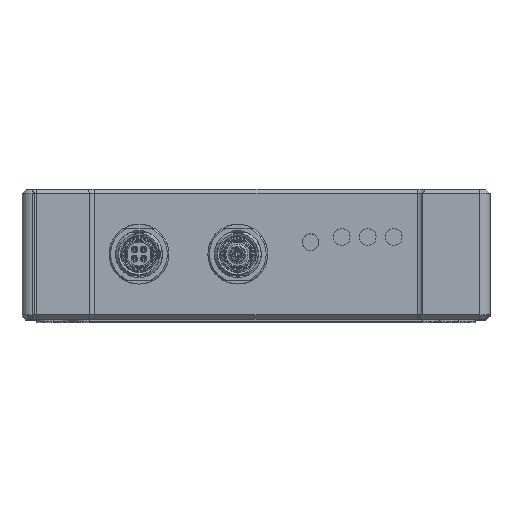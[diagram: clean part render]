
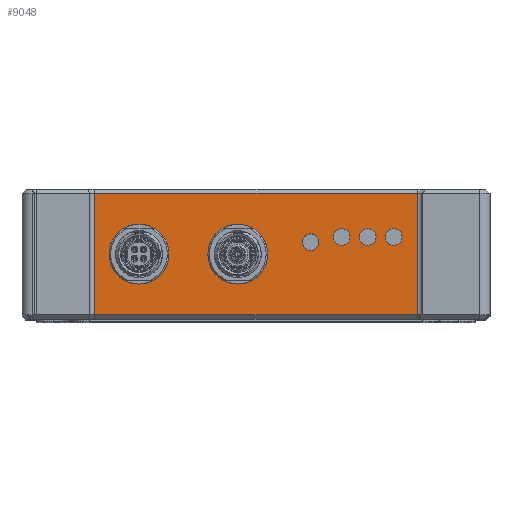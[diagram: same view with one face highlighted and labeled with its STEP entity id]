
A CAD part, top view. The second image highlights one B-rep face of the part: STEP entity #9048.
In plain terms, the highlighted planar face has unit normal (0, 0, 1).
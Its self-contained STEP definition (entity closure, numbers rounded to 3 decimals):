
#3156=CARTESIAN_POINT('',(10.5,14.8,61.5));
#3157=DIRECTION('',(0.,0.,1.));
#3158=DIRECTION('',(0.,-1.,0.));
#3159=AXIS2_PLACEMENT_3D('',#3156,#3157,#3158);
#3164=CARTESIAN_POINT('',(10.5,14.8,61.5));
#3165=DIRECTION('',(0.,0.,1.));
#3166=DIRECTION('',(0.,1.,0.));
#3167=AXIS2_PLACEMENT_3D('',#3164,#3165,#3166);
#3172=CARTESIAN_POINT('',(16.5,15.8,61.5));
#3173=DIRECTION('',(0.,0.,1.));
#3174=DIRECTION('',(0.,-1.,0.));
#3175=AXIS2_PLACEMENT_3D('',#3172,#3173,#3174);
#3180=CARTESIAN_POINT('',(16.5,15.8,61.5));
#3181=DIRECTION('',(0.,0.,1.));
#3182=DIRECTION('',(0.,1.,0.));
#3183=AXIS2_PLACEMENT_3D('',#3180,#3181,#3182);
#3188=CARTESIAN_POINT('',(21.5,15.8,61.5));
#3189=DIRECTION('',(0.,0.,1.));
#3190=DIRECTION('',(0.,-1.,0.));
#3191=AXIS2_PLACEMENT_3D('',#3188,#3189,#3190);
#3196=CARTESIAN_POINT('',(21.5,15.8,61.5));
#3197=DIRECTION('',(0.,0.,1.));
#3198=DIRECTION('',(0.,1.,0.));
#3199=AXIS2_PLACEMENT_3D('',#3196,#3197,#3198);
#3204=CARTESIAN_POINT('',(26.5,15.8,61.5));
#3205=DIRECTION('',(0.,0.,1.));
#3206=DIRECTION('',(0.,-1.,0.));
#3207=AXIS2_PLACEMENT_3D('',#3204,#3205,#3206);
#3212=CARTESIAN_POINT('',(26.5,15.8,61.5));
#3213=DIRECTION('',(0.,0.,1.));
#3214=DIRECTION('',(0.,1.,0.));
#3215=AXIS2_PLACEMENT_3D('',#3212,#3213,#3214);
#3220=DIRECTION('',(1.,0.,0.));
#3221=VECTOR('',#3220,2.849);
#3222=CARTESIAN_POINT('',(-4.925,8.325,61.5));
#3223=LINE('',#3222,#3221);
#3227=CARTESIAN_POINT('',(-3.5,12.5,61.5));
#3228=DIRECTION('',(0.,0.,1.));
#3229=DIRECTION('',(0.548,-0.837,0.));
#3230=AXIS2_PLACEMENT_3D('',#3227,#3228,#3229);
#3235=DIRECTION('',(-1.,0.,0.));
#3236=VECTOR('',#3235,2.849);
#3237=CARTESIAN_POINT('',(-2.075,16.675,61.5));
#3238=LINE('',#3237,#3236);
#3242=CARTESIAN_POINT('',(-3.5,12.5,61.5));
#3243=DIRECTION('',(0.,0.,1.));
#3244=DIRECTION('',(-0.548,0.837,0.));
#3245=AXIS2_PLACEMENT_3D('',#3242,#3243,#3244);
#3250=CARTESIAN_POINT('',(-22.5,12.5,61.5));
#3251=DIRECTION('',(0.,0.,1.));
#3252=DIRECTION('',(0.548,-0.837,0.));
#3253=AXIS2_PLACEMENT_3D('',#3250,#3251,#3252);
#3258=DIRECTION('',(-1.,0.,0.));
#3259=VECTOR('',#3258,2.849);
#3260=CARTESIAN_POINT('',(-21.075,16.675,61.5));
#3261=LINE('',#3260,#3259);
#3265=CARTESIAN_POINT('',(-22.5,12.5,61.5));
#3266=DIRECTION('',(0.,0.,1.));
#3267=DIRECTION('',(-0.548,0.837,0.));
#3268=AXIS2_PLACEMENT_3D('',#3265,#3266,#3267);
#3273=DIRECTION('',(1.,0.,0.));
#3274=VECTOR('',#3273,2.849);
#3275=CARTESIAN_POINT('',(-23.925,8.325,61.5));
#3276=LINE('',#3275,#3274);
#3280=DIRECTION('',(-1.,0.,0.));
#3281=VECTOR('',#3280,62.);
#3282=CARTESIAN_POINT('',(31.,24.2,61.5));
#3283=LINE('',#3282,#3281);
#3287=DIRECTION('',(0.,1.,0.));
#3288=VECTOR('',#3287,23.4);
#3289=CARTESIAN_POINT('',(31.,0.8,61.5));
#3290=LINE('',#3289,#3288);
#3294=DIRECTION('',(1.,0.,0.));
#3295=VECTOR('',#3294,62.);
#3296=CARTESIAN_POINT('',(-31.,0.8,61.5));
#3297=LINE('',#3296,#3295);
#3301=DIRECTION('',(0.,1.,0.));
#3302=VECTOR('',#3301,23.4);
#3303=CARTESIAN_POINT('',(-31.,0.8,61.5));
#3304=LINE('',#3303,#3302);
#4537=CARTESIAN_POINT('',(-2.075,14.675,61.5));
#4538=DIRECTION('',(0.,0.,-1.));
#4539=DIRECTION('',(0.,1.,0.));
#4540=AXIS2_PLACEMENT_3D('',#4537,#4538,#4539);
#4574=CARTESIAN_POINT('',(-4.925,14.675,61.5));
#4575=DIRECTION('',(0.,0.,-1.));
#4576=DIRECTION('',(-0.548,0.837,0.));
#4577=AXIS2_PLACEMENT_3D('',#4574,#4575,#4576);
#4612=CARTESIAN_POINT('',(-4.925,10.325,61.5));
#4613=DIRECTION('',(0.,0.,-1.));
#4614=DIRECTION('',(0.,-1.,0.));
#4615=AXIS2_PLACEMENT_3D('',#4612,#4613,#4614);
#4649=CARTESIAN_POINT('',(-2.075,10.325,61.5));
#4650=DIRECTION('',(0.,0.,-1.));
#4651=DIRECTION('',(0.548,-0.837,0.));
#4652=AXIS2_PLACEMENT_3D('',#4649,#4650,#4651);
#4686=CARTESIAN_POINT('',(-21.075,14.675,61.5));
#4687=DIRECTION('',(0.,0.,-1.));
#4688=DIRECTION('',(0.,1.,0.));
#4689=AXIS2_PLACEMENT_3D('',#4686,#4687,#4688);
#4724=CARTESIAN_POINT('',(-21.075,10.325,61.5));
#4725=DIRECTION('',(0.,0.,-1.));
#4726=DIRECTION('',(0.548,-0.837,0.));
#4727=AXIS2_PLACEMENT_3D('',#4724,#4725,#4726);
#4761=CARTESIAN_POINT('',(-23.925,10.325,61.5));
#4762=DIRECTION('',(0.,0.,-1.));
#4763=DIRECTION('',(0.,-1.,0.));
#4764=AXIS2_PLACEMENT_3D('',#4761,#4762,#4763);
#4799=CARTESIAN_POINT('',(-23.925,14.675,61.5));
#4800=DIRECTION('',(0.,0.,-1.));
#4801=DIRECTION('',(-0.548,0.837,0.));
#4802=AXIS2_PLACEMENT_3D('',#4799,#4800,#4801);
#6312=CARTESIAN_POINT('',(10.5,13.2,61.5));
#6313=CARTESIAN_POINT('',(10.5,16.4,61.5));
#6314=VERTEX_POINT('',#6312);
#6315=VERTEX_POINT('',#6313);
#6316=CARTESIAN_POINT('',(16.5,14.5,61.5));
#6317=CARTESIAN_POINT('',(16.5,17.1,61.5));
#6318=VERTEX_POINT('',#6316);
#6319=VERTEX_POINT('',#6317);
#6320=CARTESIAN_POINT('',(21.5,14.5,61.5));
#6321=CARTESIAN_POINT('',(21.5,17.1,61.5));
#6322=VERTEX_POINT('',#6320);
#6323=VERTEX_POINT('',#6321);
#6324=CARTESIAN_POINT('',(26.5,14.5,61.5));
#6325=CARTESIAN_POINT('',(26.5,17.1,61.5));
#6326=VERTEX_POINT('',#6324);
#6327=VERTEX_POINT('',#6325);
#6422=CARTESIAN_POINT('',(-31.,24.2,61.5));
#6424=VERTEX_POINT('',#6422);
#6426=CARTESIAN_POINT('',(31.,24.2,61.5));
#6427=VERTEX_POINT('',#6426);
#6498=CARTESIAN_POINT('',(31.,0.8,61.5));
#6499=VERTEX_POINT('',#6498);
#6500=CARTESIAN_POINT('',(-31.,0.8,61.5));
#6501=VERTEX_POINT('',#6500);
#6604=CARTESIAN_POINT('',(-2.075,16.675,61.5));
#6606=VERTEX_POINT('',#6604);
#6608=CARTESIAN_POINT('',(-0.98,16.348,61.5));
#6610=VERTEX_POINT('',#6608);
#6612=CARTESIAN_POINT('',(-0.98,8.652,61.5));
#6614=VERTEX_POINT('',#6612);
#6616=CARTESIAN_POINT('',(-2.075,8.325,61.5));
#6618=VERTEX_POINT('',#6616);
#6620=CARTESIAN_POINT('',(-4.925,8.325,61.5));
#6622=VERTEX_POINT('',#6620);
#6624=CARTESIAN_POINT('',(-6.02,8.652,61.5));
#6626=VERTEX_POINT('',#6624);
#6628=CARTESIAN_POINT('',(-6.02,16.348,61.5));
#6630=VERTEX_POINT('',#6628);
#6632=CARTESIAN_POINT('',(-4.925,16.675,61.5));
#6634=VERTEX_POINT('',#6632);
#6636=CARTESIAN_POINT('',(-21.075,16.675,61.5));
#6638=VERTEX_POINT('',#6636);
#6640=CARTESIAN_POINT('',(-19.98,16.348,61.5));
#6642=VERTEX_POINT('',#6640);
#6644=CARTESIAN_POINT('',(-19.98,8.652,61.5));
#6646=VERTEX_POINT('',#6644);
#6648=CARTESIAN_POINT('',(-21.075,8.325,61.5));
#6650=VERTEX_POINT('',#6648);
#6652=CARTESIAN_POINT('',(-23.925,8.325,61.5));
#6654=VERTEX_POINT('',#6652);
#6656=CARTESIAN_POINT('',(-25.02,8.652,61.5));
#6658=VERTEX_POINT('',#6656);
#6660=CARTESIAN_POINT('',(-25.02,16.348,61.5));
#6662=VERTEX_POINT('',#6660);
#6664=CARTESIAN_POINT('',(-23.925,16.675,61.5));
#6666=VERTEX_POINT('',#6664);
#8974=CARTESIAN_POINT('',(-32.,0.,61.5));
#8975=DIRECTION('',(0.,0.,-1.));
#8976=DIRECTION('',(1.,0.,0.));
#8977=AXIS2_PLACEMENT_3D('',#8974,#8975,#8976);
#8978=PLANE('',#8977);
#8980=ORIENTED_EDGE('',*,*,#8979,.F.);
#8982=ORIENTED_EDGE('',*,*,#8981,.F.);
#8983=ORIENTED_EDGE('',*,*,#8965,.F.);
#8985=ORIENTED_EDGE('',*,*,#8984,.T.);
#8986=EDGE_LOOP('',(#8980,#8982,#8983,#8985));
#8987=FACE_OUTER_BOUND('',#8986,.F.);
#8989=ORIENTED_EDGE('',*,*,#8988,.T.);
#8991=ORIENTED_EDGE('',*,*,#8990,.T.);
#8992=EDGE_LOOP('',(#8989,#8991));
#8993=FACE_BOUND('',#8992,.F.);
#8995=ORIENTED_EDGE('',*,*,#8994,.T.);
#8997=ORIENTED_EDGE('',*,*,#8996,.T.);
#8998=EDGE_LOOP('',(#8995,#8997));
#8999=FACE_BOUND('',#8998,.F.);
#9001=ORIENTED_EDGE('',*,*,#9000,.T.);
#9003=ORIENTED_EDGE('',*,*,#9002,.T.);
#9004=EDGE_LOOP('',(#9001,#9003));
#9005=FACE_BOUND('',#9004,.F.);
#9007=ORIENTED_EDGE('',*,*,#9006,.T.);
#9009=ORIENTED_EDGE('',*,*,#9008,.F.);
#9011=ORIENTED_EDGE('',*,*,#9010,.T.);
#9013=ORIENTED_EDGE('',*,*,#9012,.F.);
#9015=ORIENTED_EDGE('',*,*,#9014,.T.);
#9017=ORIENTED_EDGE('',*,*,#9016,.F.);
#9019=ORIENTED_EDGE('',*,*,#9018,.T.);
#9021=ORIENTED_EDGE('',*,*,#9020,.F.);
#9022=EDGE_LOOP('',(#9007,#9009,#9011,#9013,#9015,#9017,#9019,#9021));
#9023=FACE_BOUND('',#9022,.F.);
#9025=ORIENTED_EDGE('',*,*,#9024,.T.);
#9027=ORIENTED_EDGE('',*,*,#9026,.F.);
#9029=ORIENTED_EDGE('',*,*,#9028,.T.);
#9031=ORIENTED_EDGE('',*,*,#9030,.F.);
#9033=ORIENTED_EDGE('',*,*,#9032,.T.);
#9035=ORIENTED_EDGE('',*,*,#9034,.F.);
#9037=ORIENTED_EDGE('',*,*,#9036,.T.);
#9039=ORIENTED_EDGE('',*,*,#9038,.F.);
#9040=EDGE_LOOP('',(#9025,#9027,#9029,#9031,#9033,#9035,#9037,#9039));
#9041=FACE_BOUND('',#9040,.F.);
#9043=ORIENTED_EDGE('',*,*,#9042,.T.);
#9045=ORIENTED_EDGE('',*,*,#9044,.T.);
#9046=EDGE_LOOP('',(#9043,#9045));
#9047=FACE_BOUND('',#9046,.F.);
#3160=CIRCLE('',#3159,1.6);
#3168=CIRCLE('',#3167,1.6);
#3176=CIRCLE('',#3175,1.3);
#3184=CIRCLE('',#3183,1.3);
#3192=CIRCLE('',#3191,1.3);
#3200=CIRCLE('',#3199,1.3);
#3208=CIRCLE('',#3207,1.3);
#3216=CIRCLE('',#3215,1.3);
#3231=CIRCLE('',#3230,4.6);
#3246=CIRCLE('',#3245,4.6);
#3254=CIRCLE('',#3253,4.6);
#3269=CIRCLE('',#3268,4.6);
#4541=CIRCLE('',#4540,2.);
#4578=CIRCLE('',#4577,2.);
#4616=CIRCLE('',#4615,2.);
#4653=CIRCLE('',#4652,2.);
#4690=CIRCLE('',#4689,2.);
#4728=CIRCLE('',#4727,2.);
#4765=CIRCLE('',#4764,2.);
#4803=CIRCLE('',#4802,2.);
#8965=EDGE_CURVE('',#6501,#6499,#3297,.T.);
#8979=EDGE_CURVE('',#6427,#6424,#3283,.T.);
#8981=EDGE_CURVE('',#6499,#6427,#3290,.T.);
#8984=EDGE_CURVE('',#6501,#6424,#3304,.T.);
#8988=EDGE_CURVE('',#6318,#6319,#3176,.T.);
#8990=EDGE_CURVE('',#6319,#6318,#3184,.T.);
#8994=EDGE_CURVE('',#6322,#6323,#3192,.T.);
#8996=EDGE_CURVE('',#6323,#6322,#3200,.T.);
#9000=EDGE_CURVE('',#6326,#6327,#3208,.T.);
#9002=EDGE_CURVE('',#6327,#6326,#3216,.T.);
#9006=EDGE_CURVE('',#6622,#6618,#3223,.T.);
#9008=EDGE_CURVE('',#6614,#6618,#4653,.T.);
#9010=EDGE_CURVE('',#6614,#6610,#3231,.T.);
#9012=EDGE_CURVE('',#6606,#6610,#4541,.T.);
#9014=EDGE_CURVE('',#6606,#6634,#3238,.T.);
#9016=EDGE_CURVE('',#6630,#6634,#4578,.T.);
#9018=EDGE_CURVE('',#6630,#6626,#3246,.T.);
#9020=EDGE_CURVE('',#6622,#6626,#4616,.T.);
#9024=EDGE_CURVE('',#6646,#6642,#3254,.T.);
#9026=EDGE_CURVE('',#6638,#6642,#4690,.T.);
#9028=EDGE_CURVE('',#6638,#6666,#3261,.T.);
#9030=EDGE_CURVE('',#6662,#6666,#4803,.T.);
#9032=EDGE_CURVE('',#6662,#6658,#3269,.T.);
#9034=EDGE_CURVE('',#6654,#6658,#4765,.T.);
#9036=EDGE_CURVE('',#6654,#6650,#3276,.T.);
#9038=EDGE_CURVE('',#6646,#6650,#4728,.T.);
#9042=EDGE_CURVE('',#6314,#6315,#3160,.T.);
#9044=EDGE_CURVE('',#6315,#6314,#3168,.T.);
#9048=ADVANCED_FACE('',(#8987,#8993,#8999,#9005,#9023,#9041,#9047),#8978,.F.);
